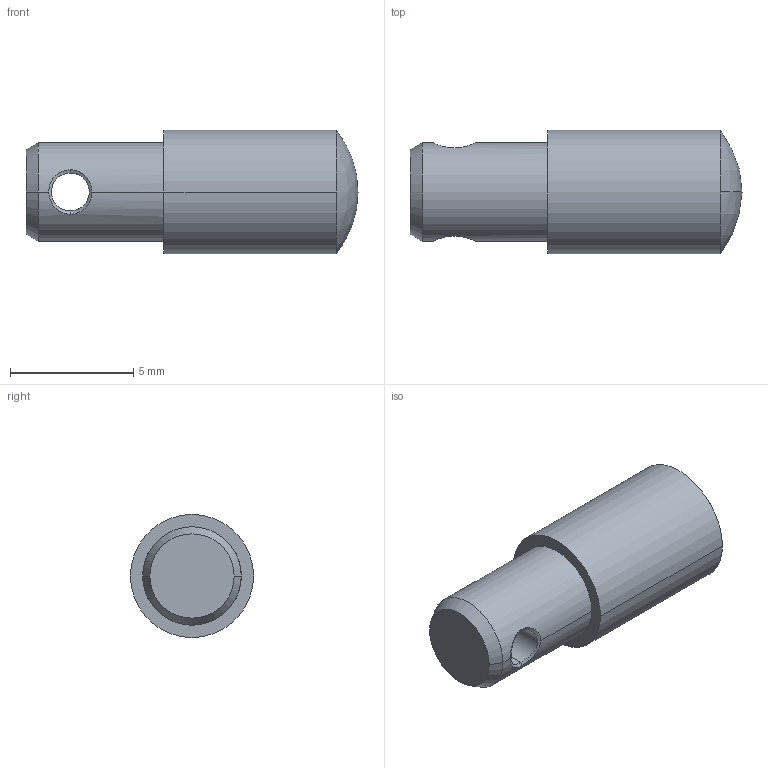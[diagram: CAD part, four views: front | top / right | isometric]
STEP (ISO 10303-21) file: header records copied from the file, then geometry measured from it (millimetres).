
FILE_DESCRIPTION (( 'STEP AP214' ), '1' );
FILE_NAME ('STANDARD_SS-round-tip.STEP', '2026-08-10T05:14:24', ( '' ), ( '' ), 'SwSTEP 2.0', 'SolidWorks 2019', '' );
FILE_SCHEMA (( 'AUTOMOTIVE_DESIGN' ));
Length unit declared in the file: millimetre
Products named in the file (2): STANDARD_SS-round-tip
Bounding box: 13.48 x 5 x 5 mm (x, y, z)
Volume: 208.6 mm3; surface area: 233.2 mm2
Topology: 1 solids, 1 shells, 16 faces, 42 edges, 27 vertices
Faces by surface type: cylinder 6, bspline 4, sphere 2, cone 2, plane 2
Entity records: 2498 total; most frequent: CARTESIAN_POINT 2084, ORIENTED_EDGE 84, DIRECTION 66, EDGE_CURVE 42, AXIS2_PLACEMENT_3D 28, VERTEX_POINT 27, B_SPLINE_CURVE_WITH_KNOTS 18, EDGE_LOOP 17
